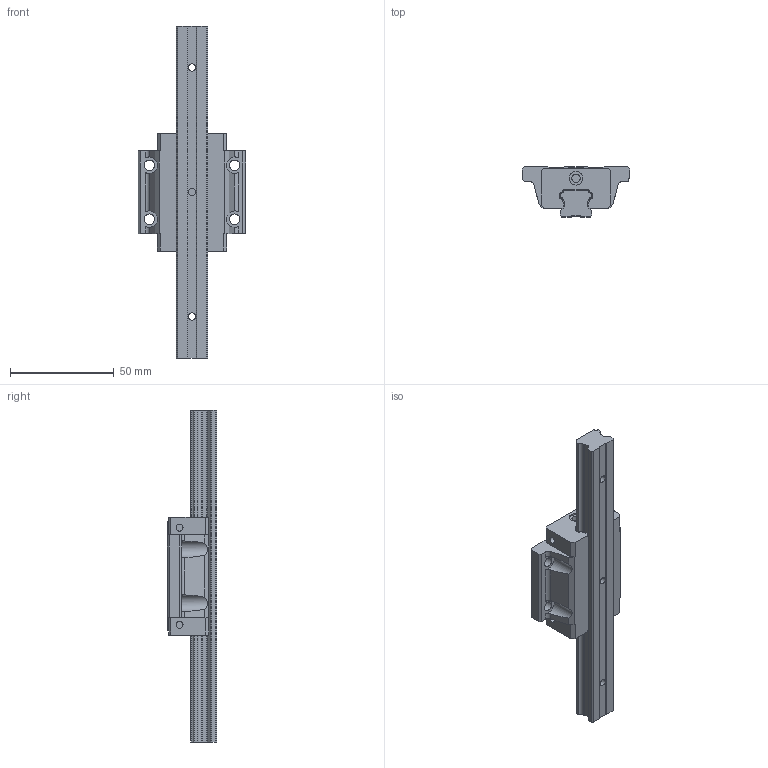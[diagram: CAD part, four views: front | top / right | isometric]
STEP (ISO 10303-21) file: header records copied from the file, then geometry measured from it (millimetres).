
FILE_DESCRIPTION((''),'2;1');
FILE_NAME('QEW15CA_ASM','2008-07-11T',('brianyu'),(''),'PRO/ENGINEER BY PARAMETRIC TECHNOLOGY CORPORATION, 2004360','PRO/ENGINEER BY PARAMETRIC TECHNOLOGY CORPORATION, 2004360','');
FILE_SCHEMA(('CONFIG_CONTROL_DESIGN'));
Length unit declared in the file: millimetre
Products named in the file (4): QEW15CA_BLOCK; PRT0005; QEW15CA_ASM_ASM; QEW15CA_ASM
Assembly tree (3 placements, depth 3):
  QEW15CA_ASM
    QEW15CA_ASM_ASM
      QEW15CA_BLOCK
      PRT0005
Bounding box: 52 x 24 x 160 mm (x, y, z)
Volume: 62485.1 mm3; surface area: 20484.3 mm2
Topology: 2 solids, 2 shells, 234 faces, 713 edges, 498 vertices
Faces by surface type: plane 118, cylinder 116
Entity records: 8394 total; most frequent: CARTESIAN_POINT 1601, ORIENTED_EDGE 1426, DIRECTION 1411, EDGE_CURVE 713, VERTEX_POINT 498, AXIS2_PLACEMENT_3D 475, VECTOR 461, LINE 461
